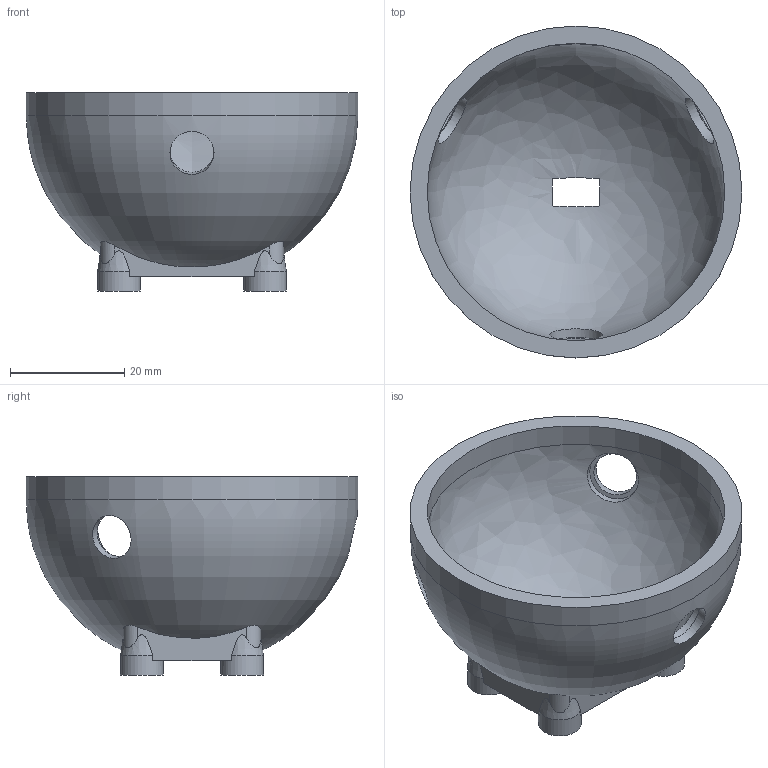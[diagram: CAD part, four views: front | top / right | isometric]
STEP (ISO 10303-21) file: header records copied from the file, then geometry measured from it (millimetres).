
FILE_DESCRIPTION(('Open CASCADE Model'),'2;1');
FILE_NAME('Open CASCADE Shape Model','2026-05-31T19:43:39',('Author'),( 'Open CASCADE'),'Open CASCADE STEP processor 7.6','Open CASCADE 7.6' ,'Unknown');
FILE_SCHEMA(('AP242_MANAGED_MODEL_BASED_3D_ENGINEERING_MIM_LF. {1 0 10303 442 1 1 4 }'));
Length unit declared in the file: millimetre
Products named in the file (1): Open CASCADE STEP translator 7.6 7
Bounding box: 58 x 58 x 34.6 mm (x, y, z)
Volume: 17023.8 mm3; surface area: 12280.2 mm2
Topology: 1 solids, 1 shells, 56 faces, 139 edges, 93 vertices
Faces by surface type: cylinder 24, plane 22, bspline 4, cone 4, revolution 2
Full cylindrical faces by diameter (mm): 3.5 x4, 7.5 x4, 7.7 x3, 9.2 x3, 52 x1, 58 x1
Entity records: 7820 total; most frequent: CARTESIAN_POINT 5101, DIRECTION 474, ORIENTED_EDGE 278, PCURVE 278, DEFINITIONAL_REPRESENTATION 278, LINE 230, VECTOR 230, EDGE_CURVE 139
